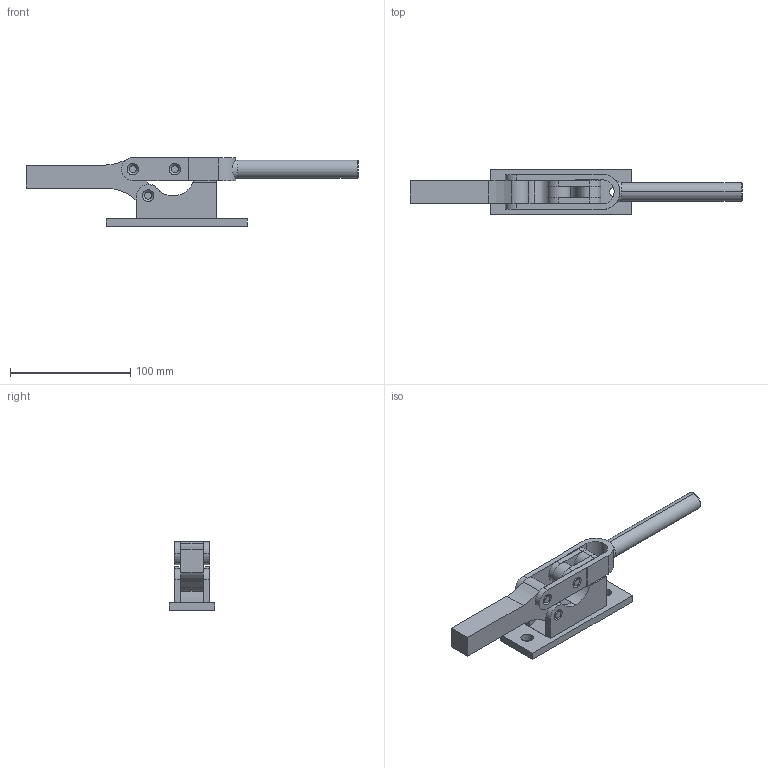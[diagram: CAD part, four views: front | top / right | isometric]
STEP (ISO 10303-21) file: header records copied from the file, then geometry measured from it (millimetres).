
FILE_DESCRIPTION( ( '' ), '1' );
FILE_NAME( 'C:\Documents and Settings\Richard Grenzke\My Documents\Wolverine Company Data\WOLVERINE CD 5_17_05\SOLIDS STEP\hold_down\c310a.stp', ' ', ( '' ), ( '' ), 'ACIS Interop R16', 'Kubotek KeyCreator V5.5.1 (0454)', ' ' );
FILE_SCHEMA( ( 'CONFIG_CONTROL_DESIGN' ) );
Length unit declared in the file: inch
Products named in the file (11): 1; 2; 3; 4; 5; 6; 7; 8; 9; 10; 11
Bounding box: 276.23 x 38.1 x 57.3 mm (x, y, z)
Volume: 158348.7 mm3; surface area: 54014.8 mm2
Topology: 10 solids, 10 shells, 150 faces, 373 edges, 243 vertices
Faces by surface type: cylinder 73, plane 57, cone 18, torus 2
Entity records: 5093 total; most frequent: DIRECTION 864, CARTESIAN_POINT 817, ORIENTED_EDGE 746, EDGE_CURVE 373, AXIS2_PLACEMENT_3D 334, VERTEX_POINT 243, LINE 196, VECTOR 196
